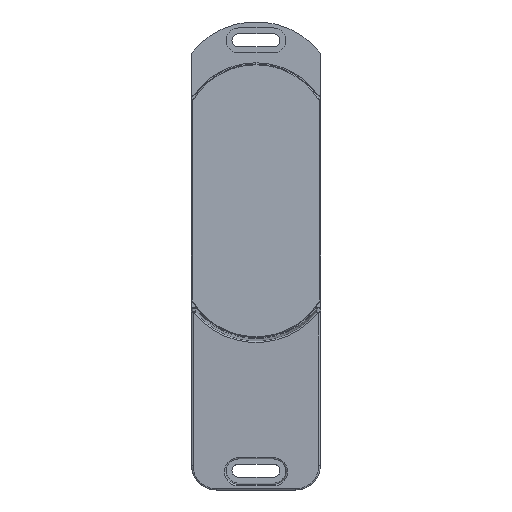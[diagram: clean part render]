
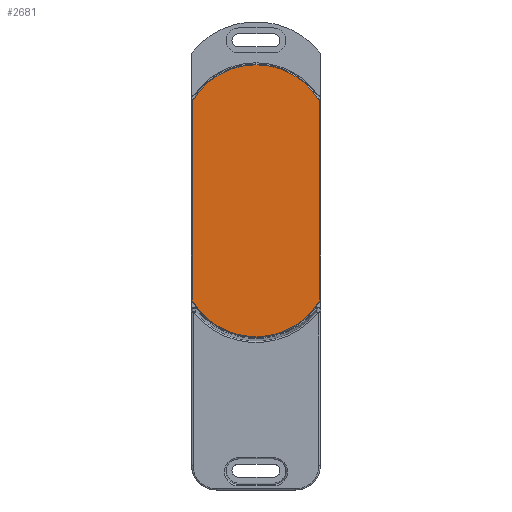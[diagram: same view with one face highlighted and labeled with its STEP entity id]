
A CAD part, top view. The second image highlights one B-rep face of the part: STEP entity #2681.
In plain terms, the highlighted planar face has unit normal (0, 0, 1).
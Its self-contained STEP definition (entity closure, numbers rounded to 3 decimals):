
#91=LINE('',#4048,#337);
#93=LINE('',#4064,#339);
#337=VECTOR('',#3194,10.);
#339=VECTOR('',#3204,10.);
#580=PLANE('',#2868);
#703=FACE_OUTER_BOUND('',#868,.T.);
#868=EDGE_LOOP('',(#1878,#1879,#1880,#1881));
#1055=CIRCLE('',#2862,29.7);
#1056=CIRCLE('',#2865,29.7);
#1181=VERTEX_POINT('',#4035);
#1182=VERTEX_POINT('',#4036);
#1183=VERTEX_POINT('',#4047);
#1185=VERTEX_POINT('',#4056);
#1450=EDGE_CURVE('',#1181,#1182,#1055,.T.);
#1453=EDGE_CURVE('',#1182,#1183,#91,.T.);
#1456=EDGE_CURVE('',#1183,#1185,#1056,.T.);
#1459=EDGE_CURVE('',#1185,#1181,#93,.T.);
#1878=ORIENTED_EDGE('',*,*,#1450,.F.);
#1879=ORIENTED_EDGE('',*,*,#1459,.F.);
#1880=ORIENTED_EDGE('',*,*,#1456,.F.);
#1881=ORIENTED_EDGE('',*,*,#1453,.F.);
#2681=ADVANCED_FACE('',(#703),#580,.T.);
#2862=AXIS2_PLACEMENT_3D('',#4037,#3190,#3191);
#2865=AXIS2_PLACEMENT_3D('',#4057,#3198,#3199);
#2868=AXIS2_PLACEMENT_3D('',#4065,#3205,#3206);
#3190=DIRECTION('center_axis',(0.,0.,
-1.));
#3191=DIRECTION('ref_axis',(0.867,0.499,0.));
#3194=DIRECTION('',(0.,-1.,0.));
#3198=DIRECTION('center_axis',(0.,0.,
-1.));
#3199=DIRECTION('ref_axis',(-0.867,-0.499,0.));
#3204=DIRECTION('',(0.,1.,0.));
#3205=DIRECTION('center_axis',(0.,0.,
1.));
#3206=DIRECTION('ref_axis',(1.,0.,0.));
#4035=CARTESIAN_POINT('',(-25.7,86.886,14.5));
#4036=CARTESIAN_POINT('',(25.7,86.886,14.5));
#4037=CARTESIAN_POINT('Origin',(0.,72.,14.5));
#4047=CARTESIAN_POINT('',(25.7,7.114,14.5));
#4048=CARTESIAN_POINT('',(25.7,66.983,14.5));
#4056=CARTESIAN_POINT('',(-25.7,7.114,14.5));
#4057=CARTESIAN_POINT('Origin',(0.,22.,14.5));
#4064=CARTESIAN_POINT('',(-25.7,27.017,14.5));
#4065=CARTESIAN_POINT('Origin',(0.,47.,14.5));
